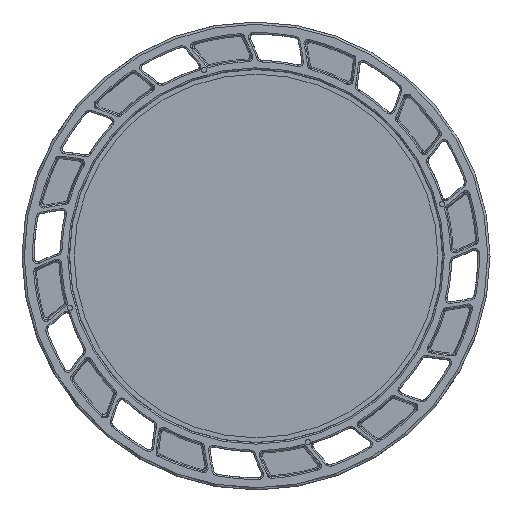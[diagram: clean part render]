
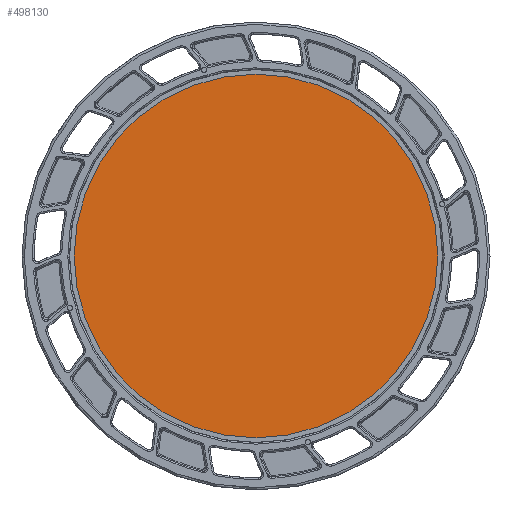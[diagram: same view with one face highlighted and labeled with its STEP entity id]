
A CAD part, left-side view. The second image highlights one B-rep face of the part: STEP entity #498130.
In plain terms, the highlighted planar face has unit normal (-1, 0, 0) as drawn and (0, 0, 1) by its records, which use the part's own axes.
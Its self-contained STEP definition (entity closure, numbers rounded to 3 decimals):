
#497930=CARTESIAN_POINT('',(0.,0.,58.5));
#497940=DIRECTION('',(-0.,0.,-1.));
#497950=DIRECTION('',(-0.105,-0.995,0.));
#497960=AXIS2_PLACEMENT_3D('',#497930,#497940,#497950);
#497970=PLANE('',#497960);
#497980=CARTESIAN_POINT('',(0.,0.,58.5));
#497990=DIRECTION('',(0.,0.,1.));
#498000=DIRECTION('',(0.105,0.995,0.));
#498010=AXIS2_PLACEMENT_3D('',#497980,#497990,#498000);
#498020=CIRCLE('',#498010,118.5);
#498030=CARTESIAN_POINT('',(-12.387,-117.851,58.5));
#498040=VERTEX_POINT('',#498030);
#498050=CARTESIAN_POINT('',(12.387,117.851,58.5));
#498060=VERTEX_POINT('',#498050);
#498070=EDGE_CURVE('',#498040,#498060,#498020,.T.);
#498080=ORIENTED_EDGE('',*,*,#498070,.T.);
#498090=EDGE_CURVE('',#498060,#498040,#498020,.T.);
#498100=ORIENTED_EDGE('',*,*,#498090,.T.);
#498110=EDGE_LOOP('',(#498100,#498080));
#498120=FACE_OUTER_BOUND('',#498110,.T.);
#498130=ADVANCED_FACE('',(#498120),#497970,.F.);
